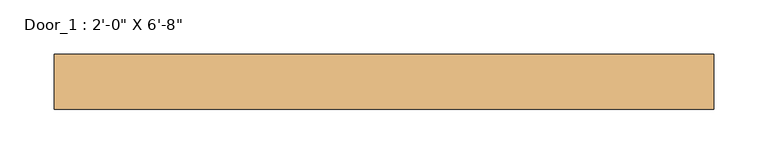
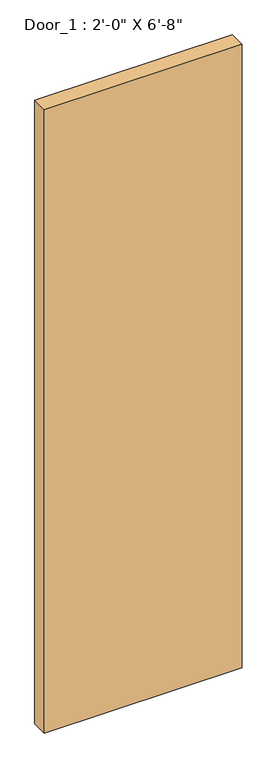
"""IFC4 building model written with IfcOpenShell, lengths in millimetres: door geometry."""

from ifc_helpers import new_model, si_unit, origin, origin_with_axes, place, context, project, spatial, polyline, outline, extrude, source, transform, mapped, element, save


def door_af60eaab(model_context):
    return source(origin(), model_context, "Body", "SweptSolid", [
        extrude(outline(polyline([(304.8, -27.1893842), (304.8, -77.9893842), (-304.8, -77.9893842), (-304.8, -27.1893842), (304.8, -27.1893842)])), origin_with_axes(), (0.0, 0.0, 1.0), 2032.0),
    ])


if __name__ == "__main__":
    model = new_model("IFC4")
    model_context = context("Model", 3, world=origin())
    ifc_project = project(units=[si_unit("LENGTHUNIT", "METRE", prefix="MILLI")], contexts=[model_context])
    site = spatial("IfcSite", under=ifc_project)
    building = spatial("IfcBuilding", under=site)
    placement = place(None, origin())
    door_shape = door_af60eaab(model_context)
    element("IfcDoor", 1, ObjectType="Door_1 : 2'-0\" X 6'-8\"", at=placement, inside=building, context=model_context, shape_type="MappedRepresentation", body=[
        mapped(door_shape, transform((0.0, 0.0, 0.0), x_axis=(1.0, 0.0, 0.0), y_axis=(0.0, 1.0, 0.0), z_axis=(0.0, 0.0, 1.0))),
    ])
    save(model, "model.ifc")
